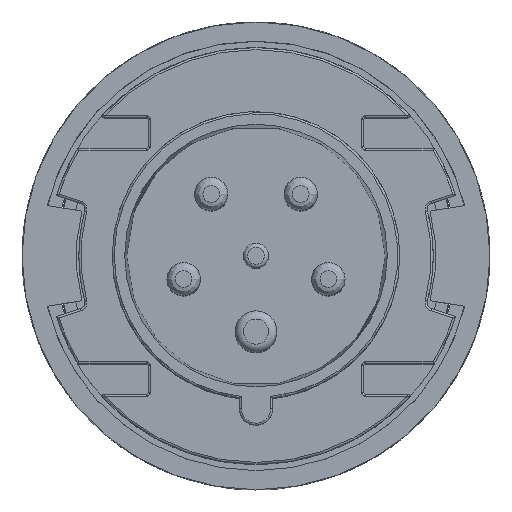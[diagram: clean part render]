
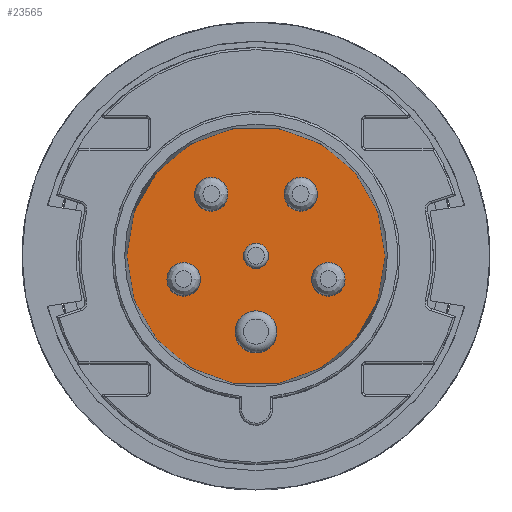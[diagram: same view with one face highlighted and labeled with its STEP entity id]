
A CAD part, top view. The second image highlights one B-rep face of the part: STEP entity #23565.
In plain terms, the highlighted planar face has unit normal (0, 0, 1).
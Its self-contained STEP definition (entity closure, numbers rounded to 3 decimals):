
#23565 = ADVANCED_FACE('',(#23566),#23604,.T.);
#23566 = FACE_BOUND('',#23567,.T.);
#23567 = EDGE_LOOP('',(#23568,#23579,#23588,#23597));
#23568 = ORIENTED_EDGE('',*,*,#23569,.F.);
#23569 = EDGE_CURVE('',#23570,#23572,#23574,.T.);
#23570 = VERTEX_POINT('',#23571);
#23571 = CARTESIAN_POINT('',(0.,31.,0.));
#23572 = VERTEX_POINT('',#23573);
#23573 = CARTESIAN_POINT('',(31.,0.,0.));
#23574 = CIRCLE('',#23575,31.);
#23575 = AXIS2_PLACEMENT_3D('',#23576,#23577,#23578);
#23576 = CARTESIAN_POINT('',(0.,0.,0.));
#23577 = DIRECTION('',(0.,0.,-1.));
#23578 = DIRECTION('',(0.,1.,0.));
#23579 = ORIENTED_EDGE('',*,*,#23580,.F.);
#23580 = EDGE_CURVE('',#23581,#23570,#23583,.T.);
#23581 = VERTEX_POINT('',#23582);
#23582 = CARTESIAN_POINT('',(-31.,0.,0.));
#23583 = CIRCLE('',#23584,31.);
#23584 = AXIS2_PLACEMENT_3D('',#23585,#23586,#23587);
#23585 = CARTESIAN_POINT('',(0.,0.,0.));
#23586 = DIRECTION('',(0.,0.,-1.));
#23587 = DIRECTION('',(-1.,0.,0.));
#23588 = ORIENTED_EDGE('',*,*,#23589,.F.);
#23589 = EDGE_CURVE('',#23590,#23581,#23592,.T.);
#23590 = VERTEX_POINT('',#23591);
#23591 = CARTESIAN_POINT('',(0.,-31.,0.));
#23592 = CIRCLE('',#23593,31.);
#23593 = AXIS2_PLACEMENT_3D('',#23594,#23595,#23596);
#23594 = CARTESIAN_POINT('',(0.,0.,0.));
#23595 = DIRECTION('',(0.,0.,-1.));
#23596 = DIRECTION('',(0.,-1.,0.));
#23597 = ORIENTED_EDGE('',*,*,#23598,.F.);
#23598 = EDGE_CURVE('',#23572,#23590,#23599,.T.);
#23599 = CIRCLE('',#23600,31.);
#23600 = AXIS2_PLACEMENT_3D('',#23601,#23602,#23603);
#23601 = CARTESIAN_POINT('',(0.,0.,0.));
#23602 = DIRECTION('',(0.,0.,-1.));
#23603 = DIRECTION('',(1.,0.,0.));
#23604 = PLANE('',#23605);
#23605 = AXIS2_PLACEMENT_3D('',#23606,#23607,#23608);
#23606 = CARTESIAN_POINT('',(0.,0.,0.));
#23607 = DIRECTION('',(0.,0.,1.));
#23608 = DIRECTION('',(-1.,0.,0.));
